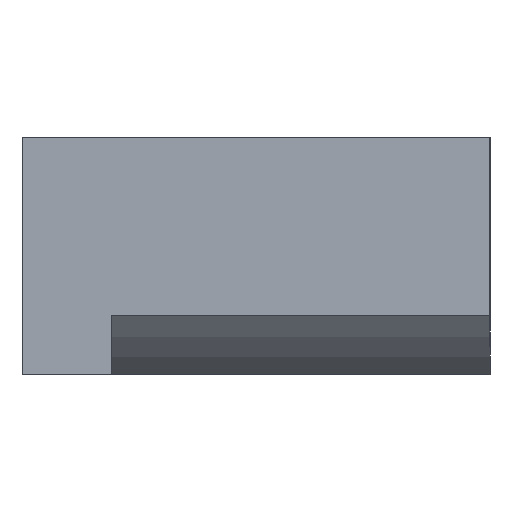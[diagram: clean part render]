
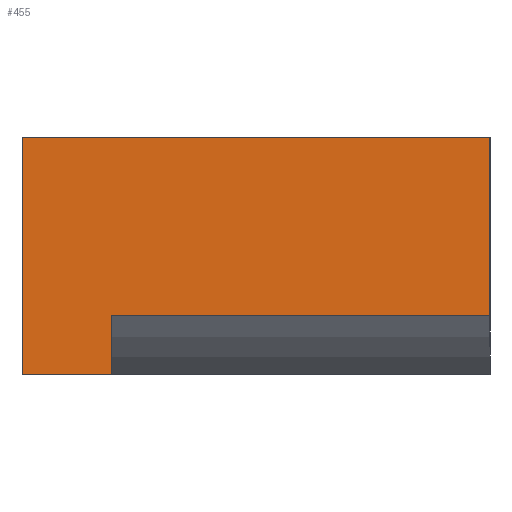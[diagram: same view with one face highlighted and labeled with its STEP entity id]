
A CAD part, left-side view. The second image highlights one B-rep face of the part: STEP entity #455.
In plain terms, the highlighted planar face has unit normal (-1, 0, 0).
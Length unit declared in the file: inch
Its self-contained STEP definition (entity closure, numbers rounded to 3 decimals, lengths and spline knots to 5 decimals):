
#21=PLANE('',#509);
#45=FACE_OUTER_BOUND('',#69,.T.);
#69=EDGE_LOOP('',(#363,#364,#365,#366,#367,#368));
#119=LINE('',#739,#169);
#134=LINE('',#770,#184);
#135=LINE('',#771,#185);
#136=LINE('',#773,#186);
#137=LINE('',#775,#187);
#138=LINE('',#776,#188);
#169=VECTOR('',#582,0.3937);
#184=VECTOR('',#607,0.3937);
#185=VECTOR('',#608,0.3937);
#186=VECTOR('',#609,0.3937);
#187=VECTOR('',#610,0.3937);
#188=VECTOR('',#611,0.3937);
#226=VERTEX_POINT('',#736);
#227=VERTEX_POINT('',#738);
#237=VERTEX_POINT('',#768);
#238=VERTEX_POINT('',#769);
#239=VERTEX_POINT('',#772);
#240=VERTEX_POINT('',#774);
#273=EDGE_CURVE('',#226,#227,#119,.T.);
#289=EDGE_CURVE('',#237,#238,#134,.T.);
#290=EDGE_CURVE('',#238,#227,#135,.T.);
#291=EDGE_CURVE('',#226,#239,#136,.T.);
#292=EDGE_CURVE('',#240,#239,#137,.T.);
#293=EDGE_CURVE('',#237,#240,#138,.T.);
#363=ORIENTED_EDGE('',*,*,#289,.T.);
#364=ORIENTED_EDGE('',*,*,#290,.T.);
#365=ORIENTED_EDGE('',*,*,#273,.F.);
#366=ORIENTED_EDGE('',*,*,#291,.T.);
#367=ORIENTED_EDGE('',*,*,#292,.F.);
#368=ORIENTED_EDGE('',*,*,#293,.F.);
#455=ADVANCED_FACE('',(#45),#21,.T.);
#509=AXIS2_PLACEMENT_3D('',#767,#605,#606);
#582=DIRECTION('',(0.,1.,0.));
#605=DIRECTION('center_axis',(-1.,0.,0.));
#606=DIRECTION('ref_axis',(0.,0.,1.));
#607=DIRECTION('',(0.,1.,0.));
#608=DIRECTION('',(0.,0.,-1.));
#609=DIRECTION('',(0.,0.,1.));
#610=DIRECTION('',(0.,1.,0.));
#611=DIRECTION('',(0.,0.,-1.));
#736=CARTESIAN_POINT('',(-0.4,0.63661,-0.4));
#738=CARTESIAN_POINT('',(-0.4,0.78661,-0.4));
#739=CARTESIAN_POINT('',(-0.4,0.63661,-0.4));
#767=CARTESIAN_POINT('Origin',(-0.4,0.63661,-0.4));
#768=CARTESIAN_POINT('',(-0.4,0.,0.));
#769=CARTESIAN_POINT('',(-0.4,0.78661,0.));
#770=CARTESIAN_POINT('',(-0.4,0.71161,0.));
#771=CARTESIAN_POINT('',(-0.4,0.78661,-0.4));
#772=CARTESIAN_POINT('',(-0.4,0.63661,-0.3));
#773=CARTESIAN_POINT('',(-0.4,0.63661,-0.4));
#774=CARTESIAN_POINT('',(-0.4,0.,-0.3));
#775=CARTESIAN_POINT('',(-0.4,0.31831,-0.3));
#776=CARTESIAN_POINT('',(-0.4,0.,-0.2));
